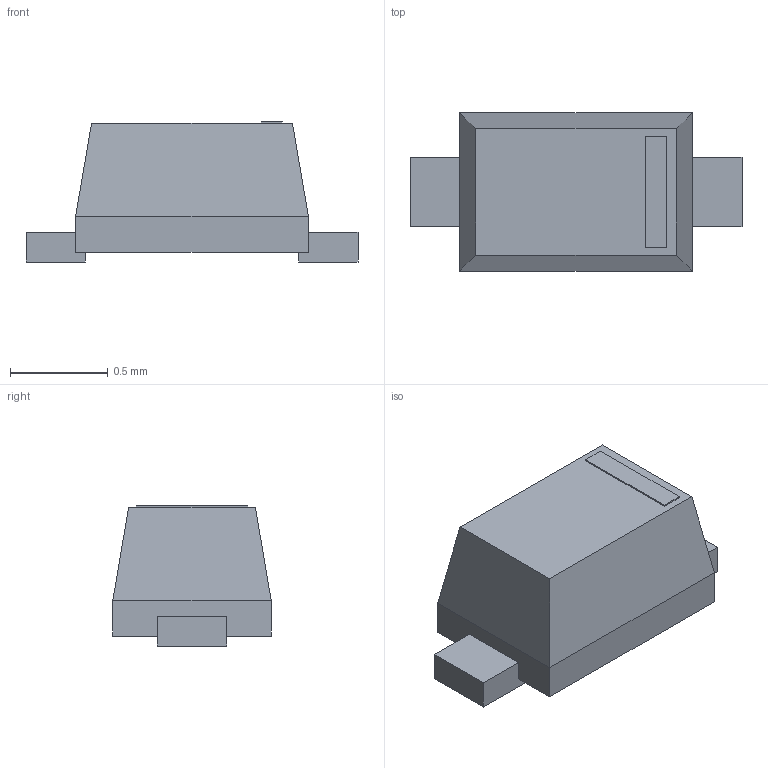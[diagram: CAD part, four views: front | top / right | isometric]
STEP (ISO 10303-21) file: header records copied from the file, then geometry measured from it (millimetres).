
FILE_DESCRIPTION(('STEP AP214'),'1');
FILE_NAME('DIODE_SOD523_1P3XP9_ONS','2023-11-26T11:34:56',(''),(''),'','','');
FILE_SCHEMA(('AUTOMOTIVE_DESIGN'));
Length unit declared in the file: millimetre
Products named in the file (1): product
Bounding box: 1.7 x 0.81 x 0.72 mm (x, y, z)
Volume: 0.6 mm3; surface area: 5.1 mm2
Topology: 4 solids, 4 shells, 32 faces, 68 edges, 44 vertices
Faces by surface type: plane 32
Entity records: 966 total; most frequent: ORIENTED_EDGE 136, DIRECTION 134, CARTESIAN_POINT 77, EDGE_CURVE 68, LINE 68, VECTOR 68, VERTEX_POINT 44, AXIS2_PLACEMENT_3D 33
